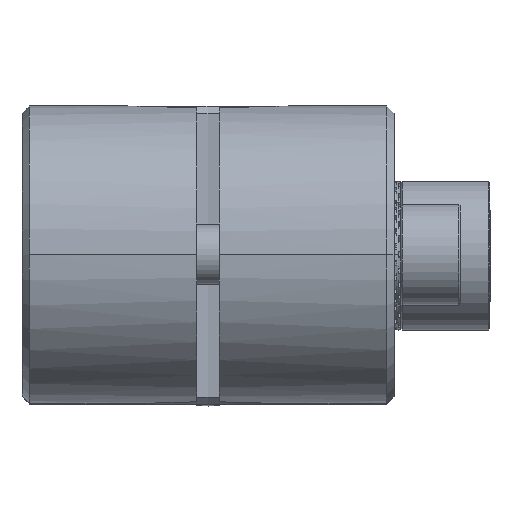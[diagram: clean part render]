
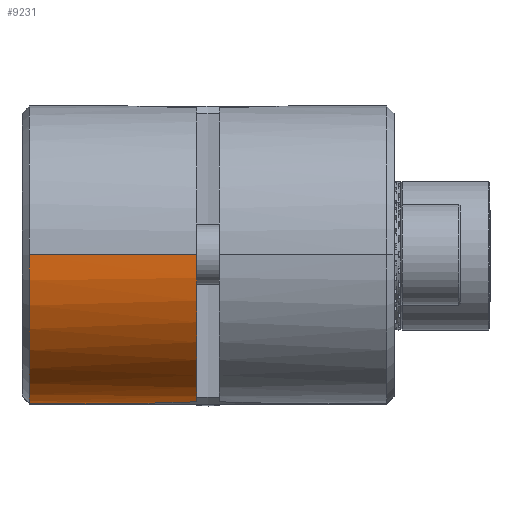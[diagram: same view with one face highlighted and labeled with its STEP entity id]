
A CAD part, top view. The second image highlights one B-rep face of the part: STEP entity #9231.
In plain terms, the highlighted cylindrical face has radius 10 mm (diameter 20 mm), a partial arc.
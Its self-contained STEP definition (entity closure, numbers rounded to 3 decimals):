
#345 = LINE ( 'NONE', #1734, #11081 ) ;
#402 = CARTESIAN_POINT ( 'NONE',  ( -10., 0., 0.5 ) ) ;
#552 = ORIENTED_EDGE ( 'NONE', *, *, #2866, .T. ) ;
#835 = CARTESIAN_POINT ( 'NONE',  ( 0., -10., 7.152 ) ) ;
#1685 = DIRECTION ( 'NONE',  ( 0., 0., 1. ) ) ;
#1734 = CARTESIAN_POINT ( 'NONE',  ( -10., 0., 25. ) ) ;
#1793 = EDGE_CURVE ( 'NONE', #6264, #5787, #345, .T. ) ;
#2134 = CARTESIAN_POINT ( 'NONE',  ( -0.973, -9.953, 9.169 ) ) ;
#2793 = CARTESIAN_POINT ( 'NONE',  ( 0., 0., 11.75 ) ) ;
#2866 = EDGE_CURVE ( 'NONE', #11657, #13530, #10036, .T. ) ;
#2973 = CARTESIAN_POINT ( 'NONE',  ( 0., 0., 25. ) ) ;
#3253 = DIRECTION ( 'NONE',  ( 0., 0., -1. ) ) ;
#3961 = CARTESIAN_POINT ( 'NONE',  ( 0., -10., 7.152 ) ) ;
#4364 = DIRECTION ( 'NONE',  ( 1., 0., 0. ) ) ;
#4477 = CARTESIAN_POINT ( 'NONE',  ( 0., -10., 25. ) ) ;
#4485 = CARTESIAN_POINT ( 'NONE',  ( -1.293, -9.919, 10.141 ) ) ;
#4768 = AXIS2_PLACEMENT_3D ( 'NONE', #2973, #7956, #12938 ) ;
#5038 = CIRCLE ( 'NONE', #7128, 10. ) ;
#5069 = EDGE_CURVE ( 'NONE', #13530, #6264, #5882, .T. ) ;
#5531 = EDGE_CURVE ( 'NONE', #11657, #13597, #9534, .T. ) ;
#5569 = VECTOR ( 'NONE', #3253, 1000. ) ;
#5644 = DIRECTION ( 'NONE',  ( -1., 0., 0. ) ) ;
#5787 = VERTEX_POINT ( 'NONE', #402 ) ;
#5882 = CIRCLE ( 'NONE', #10840, 10. ) ;
#6264 = VERTEX_POINT ( 'NONE', #8097 ) ;
#7017 = CARTESIAN_POINT ( 'NONE',  ( -0.755, -9.972, 8.603 ) ) ;
#7128 = AXIS2_PLACEMENT_3D ( 'NONE', #10401, #1685, #4364 ) ;
#7771 = DIRECTION ( 'NONE',  ( 0., 0., -1. ) ) ;
#7956 = DIRECTION ( 'NONE',  ( 0., 0., -1. ) ) ;
#8097 = CARTESIAN_POINT ( 'NONE',  ( -10., 0., 11.75 ) ) ;
#8372 = ORIENTED_EDGE ( 'NONE', *, *, #5069, .T. ) ;
#9173 = FACE_OUTER_BOUND ( 'NONE', #13626, .T. ) ;
#9189 = EDGE_CURVE ( 'NONE', #5787, #13597, #5038, .T. ) ;
#9231 = ADVANCED_FACE ( 'NONE', ( #9173 ), #14165, .T. ) ;
#9534 = LINE ( 'NONE', #4477, #5569 ) ;
#10036 = B_SPLINE_CURVE_WITH_KNOTS ( 'NONE', 3,
 ( #835, #11919, #10692, #15673, #15837, #12231, #7017, #12070, #2134, #4485, #12154, #15989 ),
 .UNSPECIFIED., .F., .F.,
 ( 4, 2, 2, 2, 2, 4 ),
 ( 0., 0.125, 0.25, 0.375, 0.5, 1. ),
 .UNSPECIFIED. ) ;
#10401 = CARTESIAN_POINT ( 'NONE',  ( 0., 0., 0.5 ) ) ;
#10651 = CARTESIAN_POINT ( 'NONE',  ( -1.513, -9.885, 11.75 ) ) ;
#10692 = CARTESIAN_POINT ( 'NONE',  ( -0.212, -9.998, 7.504 ) ) ;
#10840 = AXIS2_PLACEMENT_3D ( 'NONE', #2793, #7771, #5644 ) ;
#11081 = VECTOR ( 'NONE', #15428, 1000. ) ;
#11657 = VERTEX_POINT ( 'NONE', #3961 ) ;
#11793 = ORIENTED_EDGE ( 'NONE', *, *, #1793, .T. ) ;
#11919 = CARTESIAN_POINT ( 'NONE',  ( -0.109, -10., 7.326 ) ) ;
#12070 = CARTESIAN_POINT ( 'NONE',  ( -0.904, -9.959, 8.98 ) ) ;
#12154 = CARTESIAN_POINT ( 'NONE',  ( -1.452, -9.894, 10.941 ) ) ;
#12231 = CARTESIAN_POINT ( 'NONE',  ( -0.674, -9.978, 8.417 ) ) ;
#12938 = DIRECTION ( 'NONE',  ( -1., 0., 0. ) ) ;
#13530 = VERTEX_POINT ( 'NONE', #10651 ) ;
#13597 = VERTEX_POINT ( 'NONE', #15873 ) ;
#13626 = EDGE_LOOP ( 'NONE', ( #8372, #11793, #15463, #13877, #552 ) ) ;
#13877 = ORIENTED_EDGE ( 'NONE', *, *, #5531, .F. ) ;
#14165 = CYLINDRICAL_SURFACE ( 'NONE', #4768, 10. ) ;
#15428 = DIRECTION ( 'NONE',  ( 0., 0., -1. ) ) ;
#15463 = ORIENTED_EDGE ( 'NONE', *, *, #9189, .T. ) ;
#15673 = CARTESIAN_POINT ( 'NONE',  ( -0.408, -9.992, 7.864 ) ) ;
#15837 = CARTESIAN_POINT ( 'NONE',  ( -0.501, -9.988, 8.048 ) ) ;
#15873 = CARTESIAN_POINT ( 'NONE',  ( 0., -10., 0.5 ) ) ;
#15989 = CARTESIAN_POINT ( 'NONE',  ( -1.513, -9.885, 11.75 ) ) ;
